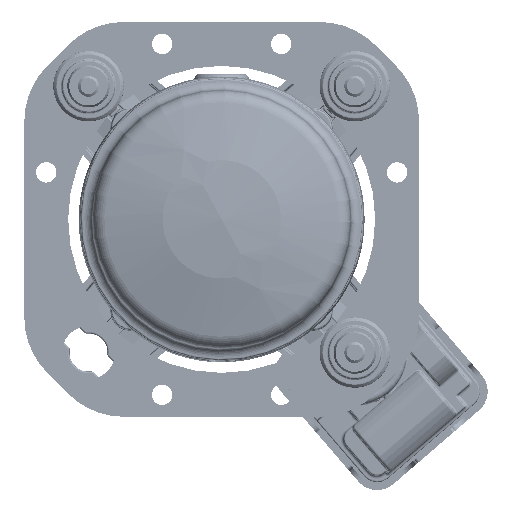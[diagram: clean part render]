
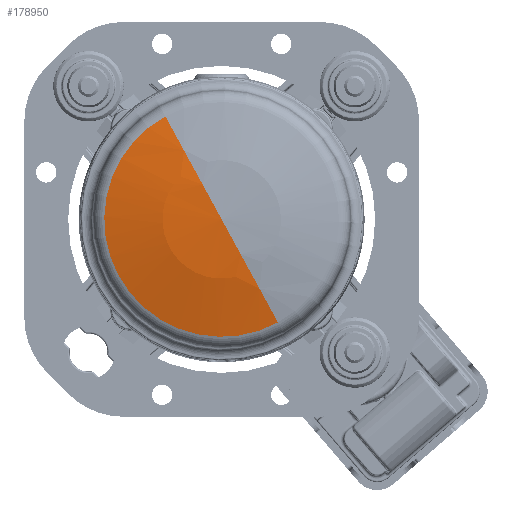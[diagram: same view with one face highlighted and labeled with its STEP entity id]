
A CAD part, left-side view. The second image highlights one B-rep face of the part: STEP entity #178950.
In plain terms, the highlighted spherical face has radius 142 mm.
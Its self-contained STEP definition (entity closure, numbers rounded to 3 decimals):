
#178922=AXIS2_PLACEMENT_3D('Sphere Axis2P3D',#178919,#178920,#178921) ;
#178926=AXIS2_PLACEMENT_3D('Circle Axis2P3D',#178924,#178925,$) ;
#178935=AXIS2_PLACEMENT_3D('Circle Axis2P3D',#178933,#178934,$) ;
#178942=AXIS2_PLACEMENT_3D('Circle Axis2P3D',#178940,#178941,$) ;
#178919=CARTESIAN_POINT('Axis2P3D Location',(90.07,0.,0.)) ;
#178924=CARTESIAN_POINT('Axis2P3D Location',(-46.896,0.,0.)) ;
#178928=CARTESIAN_POINT('Vertex',(-46.896,17.965,32.885)) ;
#178930=CARTESIAN_POINT('Vertex',(-46.896,-17.965,-32.885)) ;
#178933=CARTESIAN_POINT('Axis2P3D Location',(90.07,0.,0.)) ;
#178937=CARTESIAN_POINT('Vertex',(-51.93,0.,0.)) ;
#178940=CARTESIAN_POINT('Axis2P3D Location',(90.07,0.,0.)) ;
#178920=DIRECTION('Axis2P3D Direction',(-1.,0.,0.)) ;
#178921=DIRECTION('Axis2P3D XDirection',(0.,0.479,0.878)) ;
#178925=DIRECTION('Axis2P3D Direction',(-1.,0.,0.)) ;
#178934=DIRECTION('Axis2P3D Direction',(0.,-0.878,0.479)) ;
#178941=DIRECTION('Axis2P3D Direction',(0.,0.878,-0.479)) ;
#178946=ORIENTED_EDGE('',*,*,#178932,.F.) ;
#178947=ORIENTED_EDGE('',*,*,#178939,.T.) ;
#178948=ORIENTED_EDGE('',*,*,#178944,.F.) ;
#178950=ADVANCED_FACE('Extract.1',(#178949),#178923,.F.) ;
#178927=CIRCLE('generated circle',#178926,37.473) ;
#178936=CIRCLE('generated circle',#178935,142.) ;
#178943=CIRCLE('generated circle',#178942,142.) ;
#178932=EDGE_CURVE('',#178929,#178931,#178927,.T.) ;
#178939=EDGE_CURVE('',#178929,#178938,#178936,.T.) ;
#178944=EDGE_CURVE('',#178931,#178938,#178943,.T.) ;
#178945=EDGE_LOOP('',(#178946,#178947,#178948)) ;
#178949=FACE_OUTER_BOUND('',#178945,.T.) ;
#178923=SPHERICAL_SURFACE('',#178922,142.) ;
#178929=VERTEX_POINT('',#178928) ;
#178931=VERTEX_POINT('',#178930) ;
#178938=VERTEX_POINT('',#178937) ;
